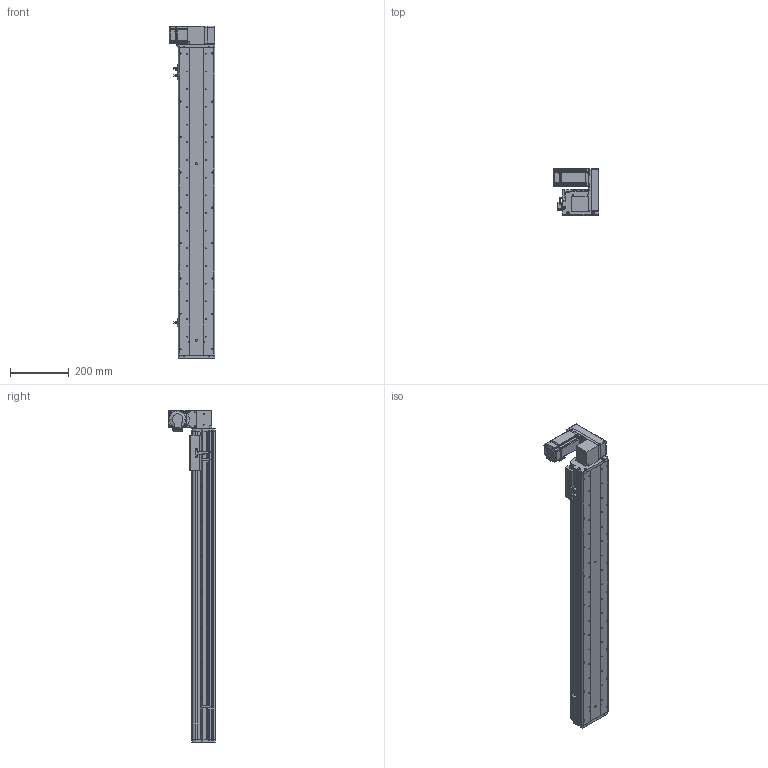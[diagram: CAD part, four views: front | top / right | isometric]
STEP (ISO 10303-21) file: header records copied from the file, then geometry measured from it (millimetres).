
FILE_DESCRIPTION (( 'STEP AP214' ), '1' );
FILE_NAME ('KSD125B-S850-MLU-CM.STEP', '2017-10-21T03:24:32', ( '微软用户' ), ( '微软中国' ), 'SwSTEP 2.0', 'SolidWorks 2014', '' );
FILE_SCHEMA (( 'AUTOMOTIVE_DESIGN' ));
Length unit declared in the file: millimetre
Products named in the file (17): 125模组850行程同步带-底板; MHMD042G1CA_2_03; KSD125模组同步带-防撞垫2; 覜茼え68遵圉猾敕; U倰嫖萇假蚾璃; U倰嫖萇EEㄜSX672; KSD125模组同步带-防撞垫1; 前端板-125宽模组同步带; 125模组同步带-尾端板1; KSD125模组同步带-滑动座1; KSD125B-S850-MLU-CM; 悵誘欶奻狟殏; 100宽马达安装板连板上下折丝杆同步带; HTPA30S3M150_A_H6_a佪裝蚚; HTPA30S3M150_A_H6_a萇儂蚚; 100宽马达安装板同步带左; KSD125模组850行程同步带-防尘盖
Assembly tree (20 placements, depth 2):
  KSD125B-S850-MLU-CM
    KSD125模组同步带-滑动座1
    125模组同步带-尾端板1
    前端板-125宽模组同步带
    KSD125模组同步带-防撞垫1
    U倰嫖萇EEㄜSX672  x3
    U倰嫖萇假蚾璃  x3
    覜茼え68遵圉猾敕
    KSD125模组同步带-防撞垫2
    MHMD042G1CA_2_03
    125模组850行程同步带-底板
    KSD125模组850行程同步带-防尘盖
    100宽马达安装板同步带左
    HTPA30S3M150_A_H6_a萇儂蚚
    HTPA30S3M150_A_H6_a佪裝蚚
    100宽马达安装板连板上下折丝杆同步带
    悵誘欶奻狟殏
Bounding box: 155 x 157.5 x 1127 mm (x, y, z)
Volume: 3525332.7 mm3; surface area: 1194358.6 mm2
Topology: 19 solids, 22 shells, 2293 faces, 6643 edges, 4390 vertices
Faces by surface type: cylinder 1440, plane 726, cone 105, bspline 22
Entity records: 81593 total; most frequent: CARTESIAN_POINT 16101, DIRECTION 12684, ORIENTED_EDGE 11806, EDGE_CURVE 5981, AXIS2_PLACEMENT_3D 4905, VERTEX_POINT 3982, VECTOR 2874, LINE 2874
